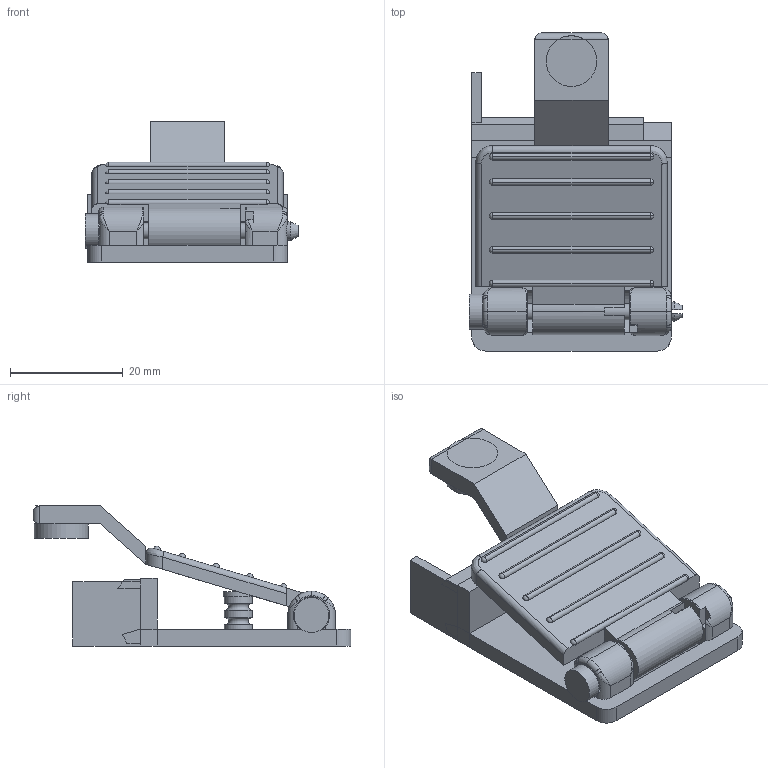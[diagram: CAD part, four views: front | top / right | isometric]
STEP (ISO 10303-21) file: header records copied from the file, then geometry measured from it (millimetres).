
FILE_DESCRIPTION(('FreeCAD Model'),'2;1');
FILE_NAME('Open CASCADE Shape Model','2026-10-18T19:16:07',('FreeCAD'),( 'FreeCAD'),'Open CASCADE STEP processor 7.9','FreeCAD','Unknown');
FILE_SCHEMA(('AUTOMOTIVE_DESIGN { 1 0 10303 214 1 1 1 1 }'));
Length unit declared in the file: millimetre
Products named in the file (1): Open CASCADE STEP translator 7.9 10
Bounding box: 37.9 x 56.5 x 24.9 mm (x, y, z)
Volume: 10601 mm3; surface area: 9732.8 mm2
Topology: 5 solids, 5 shells, 223 faces, 567 edges, 343 vertices
Faces by surface type: plane 113, cylinder 62, bspline 17, sphere 16, torus 10, cone 5
Full cylindrical faces by diameter (mm): 2.2 x3, 2.5 x1, 2.9 x1, 3.2 x3, 4 x1, 4.2 x1, 5 x3, 5.4 x1, 6.2 x2, 6.5 x1, 8 x3, 9.6 x1
Entity records: 9906 total; most frequent: CARTESIAN_POINT 4706, DIRECTION 1103, ORIENTED_EDGE 1086, EDGE_CURVE 543, AXIS2_PLACEMENT_3D 416, VERTEX_POINT 343, LINE 271, VECTOR 271
